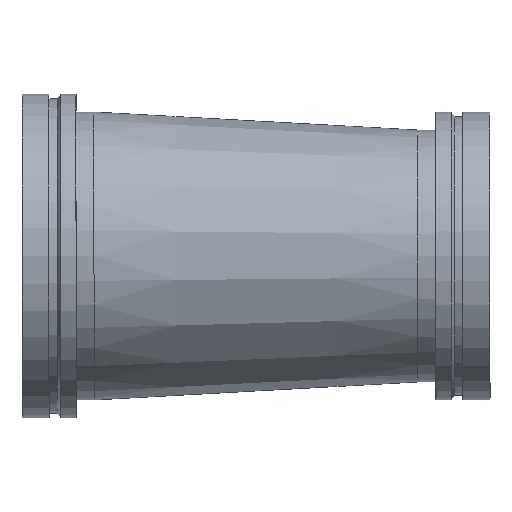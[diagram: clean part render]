
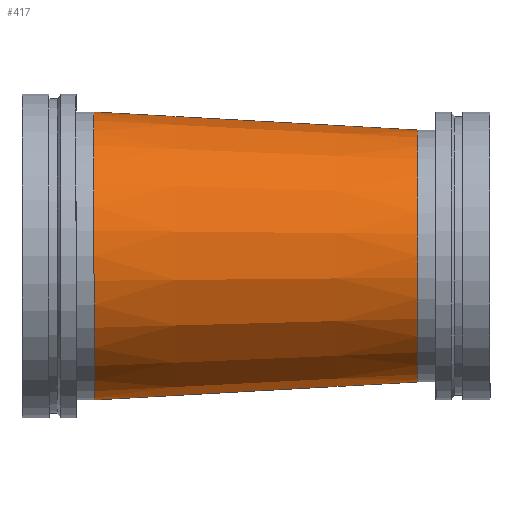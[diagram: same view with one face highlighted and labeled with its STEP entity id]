
A CAD part, top view. The second image highlights one B-rep face of the part: STEP entity #417.
In plain terms, the highlighted conical face has half-angle 3.18 degrees and reference radius 190.5 mm.
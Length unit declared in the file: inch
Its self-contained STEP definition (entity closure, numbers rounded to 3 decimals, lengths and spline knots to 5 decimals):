
#46=CONICAL_SURFACE('',#475,7.5,0.055);
#54=LINE('',#739,#68);
#68=VECTOR('',#587,7.5);
#101=FACE_OUTER_BOUND('',#124,.T.);
#124=EDGE_LOOP('',(#315,#316,#317,#318,#319,#320));
#155=CIRCLE('',#473,8.);
#156=CIRCLE('',#474,8.);
#157=CIRCLE('',#476,7.);
#158=CIRCLE('',#477,7.);
#195=VERTEX_POINT('',#729);
#196=VERTEX_POINT('',#730);
#197=VERTEX_POINT('',#735);
#198=VERTEX_POINT('',#736);
#239=EDGE_CURVE('',#195,#196,#155,.T.);
#240=EDGE_CURVE('',#196,#195,#156,.T.);
#242=EDGE_CURVE('',#197,#198,#157,.T.);
#243=EDGE_CURVE('',#198,#197,#158,.T.);
#244=EDGE_CURVE('',#198,#196,#54,.T.);
#315=ORIENTED_EDGE('',*,*,#242,.F.);
#316=ORIENTED_EDGE('',*,*,#243,.F.);
#317=ORIENTED_EDGE('',*,*,#244,.T.);
#318=ORIENTED_EDGE('',*,*,#240,.T.);
#319=ORIENTED_EDGE('',*,*,#239,.T.);
#320=ORIENTED_EDGE('',*,*,#244,.F.);
#417=ADVANCED_FACE('',(#101),#46,.T.);
#473=AXIS2_PLACEMENT_3D('',#731,#576,#577);
#474=AXIS2_PLACEMENT_3D('',#732,#578,#579);
#475=AXIS2_PLACEMENT_3D('',#734,#581,#582);
#476=AXIS2_PLACEMENT_3D('',#737,#583,#584);
#477=AXIS2_PLACEMENT_3D('',#738,#585,#586);
#576=DIRECTION('center_axis',(1.,0.,0.));
#577=DIRECTION('ref_axis',(0.,0.,-1.));
#578=DIRECTION('center_axis',(1.,0.,0.));
#579=DIRECTION('ref_axis',(0.,0.,-1.));
#581=DIRECTION('center_axis',(-1.,0.,0.));
#582=DIRECTION('ref_axis',(0.,1.,0.));
#583=DIRECTION('center_axis',(1.,0.,0.));
#584=DIRECTION('ref_axis',(0.,0.,-1.));
#585=DIRECTION('center_axis',(1.,0.,0.));
#586=DIRECTION('ref_axis',(0.,0.,-1.));
#587=DIRECTION('',(-0.998,-0.055,0.));
#729=CARTESIAN_POINT('',(4.,8.,0.));
#730=CARTESIAN_POINT('',(4.,-8.,0.));
#731=CARTESIAN_POINT('Origin',(4.,0.,0.));
#732=CARTESIAN_POINT('Origin',(4.,0.,0.));
#734=CARTESIAN_POINT('Origin',(13.,0.,0.));
#735=CARTESIAN_POINT('',(22.,7.,0.));
#736=CARTESIAN_POINT('',(22.,-7.,0.));
#737=CARTESIAN_POINT('Origin',(22.,0.,0.));
#738=CARTESIAN_POINT('Origin',(22.,0.,0.));
#739=CARTESIAN_POINT('',(13.,-7.5,0.));
